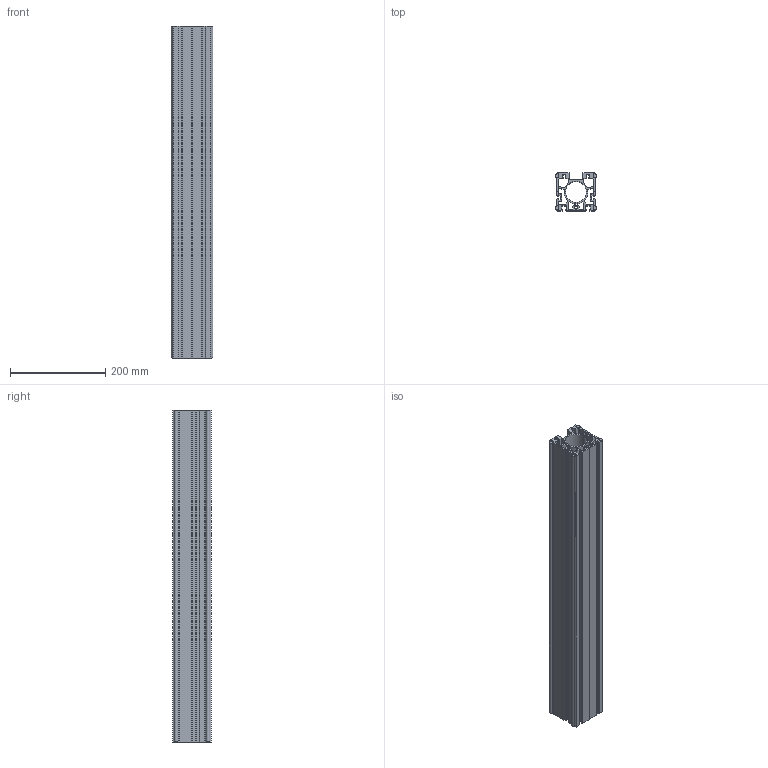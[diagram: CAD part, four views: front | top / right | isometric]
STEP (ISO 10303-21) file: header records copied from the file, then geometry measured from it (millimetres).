
FILE_DESCRIPTION (( 'STEP AP203' ), '1' );
FILE_NAME ('_-_MLF 4 698 mm lang.step', '2005-09-01T12:45:59', ( ' ' ), ( ' ' ), 'SwSTEP 2.0', 'SolidWorks 2005187', '' );
FILE_SCHEMA (( 'CONFIG_CONTROL_DESIGN' ));
Length unit declared in the file: millimetre
Products named in the file (1): _-_MLF 4  698 mm lang
Bounding box: 87.6 x 80 x 698 mm (x, y, z)
Volume: 1607835.1 mm3; surface area: 865530.4 mm2
Topology: 1 solids, 1 shells, 248 faces, 762 edges, 500 vertices
Faces by surface type: plane 174, cylinder 74
Entity records: 8575 total; most frequent: ORIENTED_EDGE 1524, CARTESIAN_POINT 1511, DIRECTION 1408, EDGE_CURVE 762, LINE 614, VECTOR 614, VERTEX_POINT 500, AXIS2_PLACEMENT_3D 397
